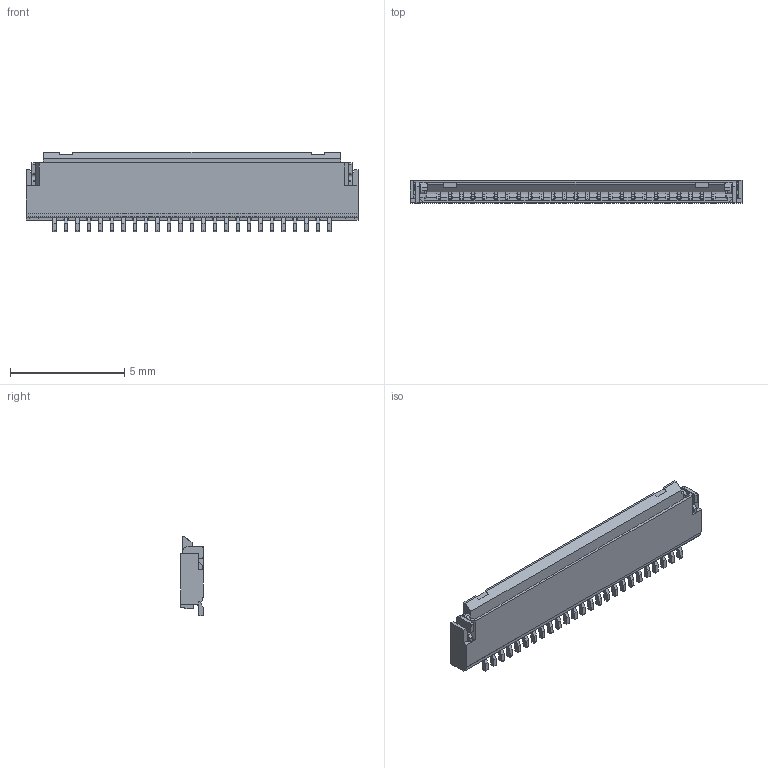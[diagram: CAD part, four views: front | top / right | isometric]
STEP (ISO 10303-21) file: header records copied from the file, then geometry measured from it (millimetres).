
FILE_DESCRIPTION((''),'2;1');
FILE_NAME('51614-025XX-XXX','2015-12-10T',('k64970'),(''),'PRO/ENGINEER BY PARAMETRIC TECHNOLOGY CORPORATION, 2009360','PRO/ENGINEER BY PARAMETRIC TECHNOLOGY CORPORATION, 2009360','');
FILE_SCHEMA(('CONFIG_CONTROL_DESIGN'));
Products named in the file (1): 51614-025XX-XXX
Bounding box: 14.5 x 1 x 3.45 mm (x, y, z)
Volume: 24.5 mm3; surface area: 289.8 mm2
Topology: 1 solids, 1 shells, 1872 faces, 6734 edges, 4658 vertices
Faces by surface type: plane 1225, cylinder 647
Entity records: 72865 total; most frequent: CARTESIAN_POINT 13788, ORIENTED_EDGE 13086, DIRECTION 11820, EDGE_CURVE 6543, VECTOR 5022, LINE 5022, VERTEX_POINT 4384, AXIS2_PLACEMENT_3D 3399
